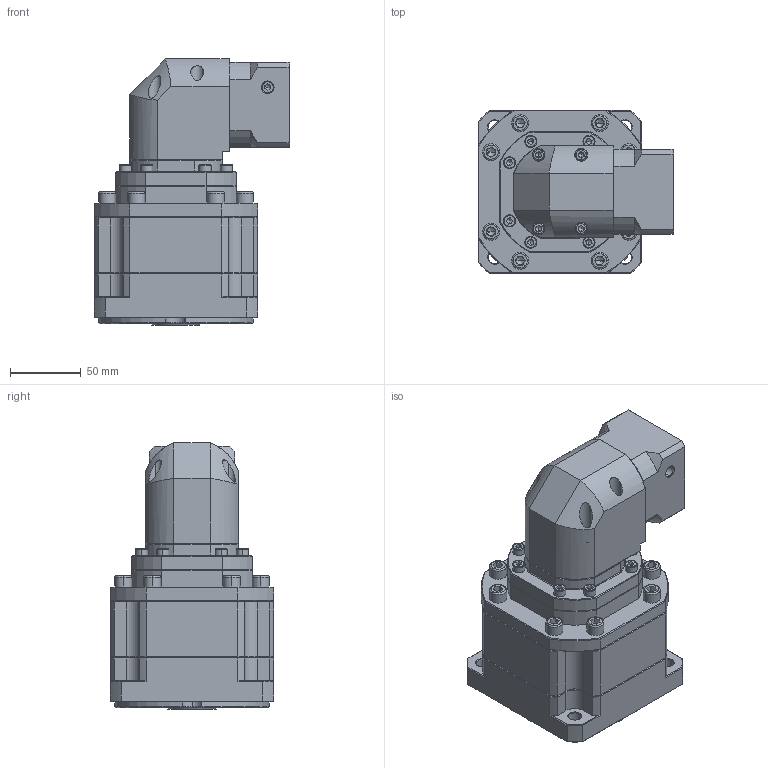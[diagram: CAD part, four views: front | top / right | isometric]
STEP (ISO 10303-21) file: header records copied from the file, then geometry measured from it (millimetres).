
FILE_DESCRIPTION (( 'STEP AP214' ), '1' );
FILE_NAME ('ZBR115A-K25-L3-P2-11-50-70-M4.step', '2023-08-26T14:08:11', ( '' ), ( '' ), 'SwSTEP 2.0', 'SolidWorks 2016', '' );
FILE_SCHEMA (( 'AUTOMOTIVE_DESIGN' ));
Length unit declared in the file: millimetre
Products named in the file (1): ZBR115A-K25-L3-P2-11-50-70-M4
Bounding box: 137.7 x 115 x 187.5 mm (x, y, z)
Volume: 1507950.8 mm3; surface area: 142605 mm2
Topology: 6 solids, 6 shells, 2573 faces, 6781 edges, 4328 vertices
Faces by surface type: plane 1292, cylinder 444, bspline 434, cone 383, torus 20
Entity records: 128942 total; most frequent: CARTESIAN_POINT 40315, ORIENTED_EDGE 13442, DIRECTION 10998, EDGE_CURVE 6721, VERTEX_POINT 4328, VECTOR 4292, LINE 4292, AXIS2_PLACEMENT_3D 3353
